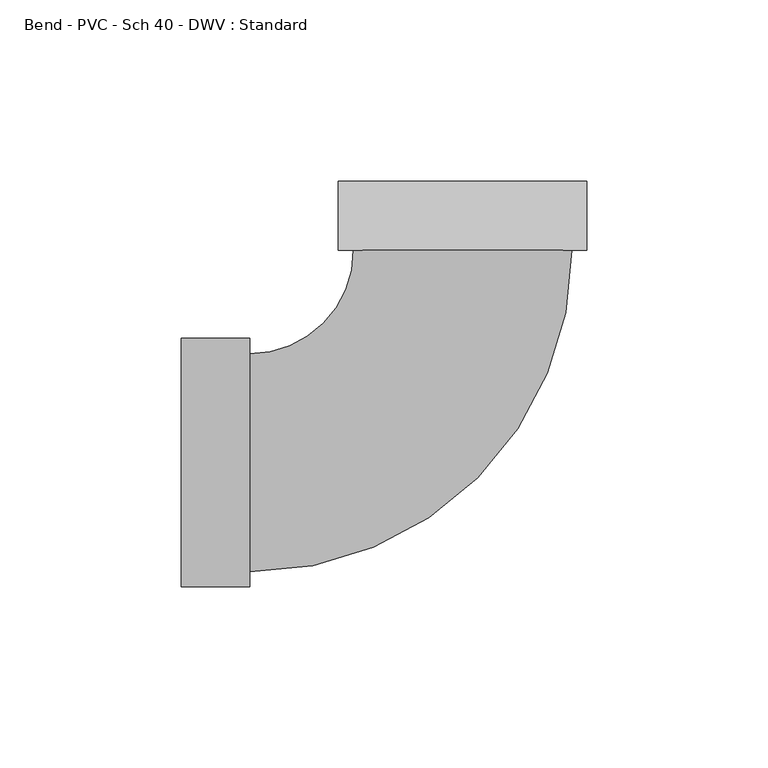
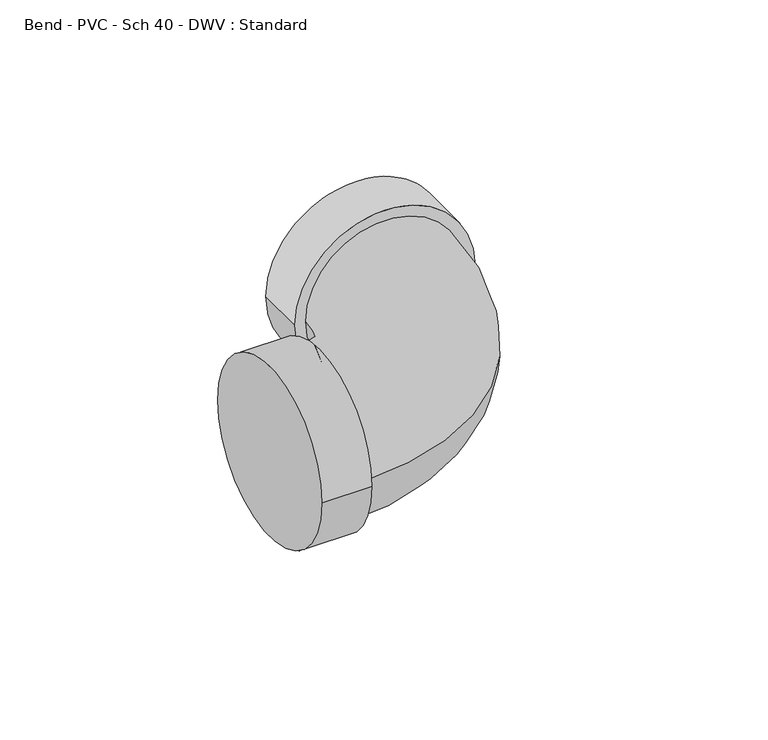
"""IFC4 building model written with IfcOpenShell, lengths in millimetres: pipe fitting geometry, Bend - PVC - Sch 40 - DWV : Standard."""

import ifcopenshell
import ifcopenshell.guid

model = None  # the IFC model being written
_history = None  # IfcOwnerHistory: only IFC2X3 demands one
_inside = {}  # id of a spatial element -> (the spatial element, [elements in it])
_under = {}  # id of a project, library or spatial element -> (it, [spatial elements below it])
_declared = {}  # id of a project -> (the project, [libraries it declares])
_typed = {}  # id of a type object -> (the type object, [elements of that type])
_made_of = {}  # id of a material, layer set ... -> (it, [elements and type objects made of it])


def new_model(schema):
    """Start an empty IFC model of exactly this schema.

    Asked for "IFC4X3", IfcOpenShell would pick the latest addendum, in which some entities
    have other attributes; the version numbers below select the first issue.
    IFC2X3 requires an IfcOwnerHistory on every rooted entity: one is made here for all.
    """
    global model, _history
    if schema == "IFC4X3":
        model = ifcopenshell.file(schema_version=(4, 3, 0, 0))
    else:
        model = ifcopenshell.file(schema=schema)
    _inside.clear()
    _under.clear()
    _declared.clear()
    _typed.clear()
    _made_of.clear()
    _history = None
    if model.schema == "IFC2X3":
        org = make("IfcOrganization", Name="unknown")
        user = make(
            "IfcPersonAndOrganization",
            ThePerson=make("IfcPerson", FamilyName="unknown"),
            TheOrganization=org,
        )
        app = make(
            "IfcApplication",
            ApplicationDeveloper=org,
            Version="unknown",
            ApplicationFullName="unknown",
            ApplicationIdentifier="unknown",
        )
        _history = make(
            "IfcOwnerHistory",
            OwningUser=user,
            OwningApplication=app,
            ChangeAction="ADDED",
            CreationDate=0,
        )
    return model


def make(cls, **values):
    """One entity of the class cls with the attributes given. An attribute that is None is left unset."""
    return model.create_entity(
        cls, **{name: value for name, value in values.items() if value is not None}
    )


def rooted(cls, **values):
    """An entity with a GlobalId (a new one), such as an element, a storey or a relation."""
    return make(cls, GlobalId=ifcopenshell.guid.new(), OwnerHistory=_history, **values)


def si_unit(unit_type, name, prefix=None):
    """IfcSIUnit, for example si_unit("LENGTHUNIT", "METRE", prefix="MILLI")."""
    return make("IfcSIUnit", UnitType=unit_type, Prefix=prefix, Name=name)


def assignment(units):
    """IfcUnitAssignment: the units of a project."""
    return None if units is None else make("IfcUnitAssignment", Units=units)


def point(xyz):
    """IfcCartesianPoint."""
    return None if xyz is None else make("IfcCartesianPoint", Coordinates=xyz)


def direction(xyz):
    """IfcDirection."""
    return None if xyz is None else make("IfcDirection", DirectionRatios=xyz)


def frame(location, z_axis=None, x_axis=None):
    """IfcAxis2Placement3D, a coordinate frame: its origin and axes. An axis left out is left unset."""
    return make(
        "IfcAxis2Placement3D",
        Location=point(location),
        Axis=direction(z_axis),
        RefDirection=direction(x_axis),
    )


def origin():
    """The frame at (0, 0, 0) with its axes left unset."""
    return frame((0.0, 0.0, 0.0))


def place(relative_to, where):
    """IfcLocalPlacement: puts the frame where relative to a parent placement (None: the world)."""
    return make(
        "IfcLocalPlacement", PlacementRelTo=relative_to, RelativePlacement=where
    )


def context(
    kind, dimensions, precision=None, world=None, true_north=None, identifier=None
):
    """IfcGeometricRepresentationContext, for example the 3D "Model" context."""
    return make(
        "IfcGeometricRepresentationContext",
        ContextIdentifier=identifier,
        ContextType=kind,
        CoordinateSpaceDimension=dimensions,
        Precision=precision,
        WorldCoordinateSystem=world,
        TrueNorth=true_north,
    )


def project(units=None, contexts=None):
    """IfcProject with its units and contexts."""
    return rooted(
        "IfcProject",
        Name="project",
        RepresentationContexts=contexts,
        UnitsInContext=assignment(units),
    )


def spatial(cls, under=None, at=None, **own):
    """A site, building, storey or space (cls), placed at a placement, below another one or the project."""
    s = rooted(cls, ObjectPlacement=at, **own)
    if under is not None:
        _under.setdefault(under.id(), (under, []))[1].append(s)
    return s


def circle_curve(where, radius):
    """IfcCircle in the frame where."""
    return make("IfcCircle", Position=where, Radius=radius)


def ellipse_curve(where, semi_axis1, semi_axis2):
    """IfcEllipse in the frame where."""
    return make(
        "IfcEllipse", Position=where, SemiAxis1=semi_axis1, SemiAxis2=semi_axis2
    )


def trimmed(basis, trim1, trim2, sense, master):
    """IfcTrimmedCurve: the piece of a basis curve between two trims."""
    return make(
        "IfcTrimmedCurve",
        BasisCurve=basis,
        Trim1=trim1,
        Trim2=trim2,
        SenseAgreement=sense,
        MasterRepresentation=master,
    )


def shape(context_of_items, identifier, shape_type, items):
    """IfcShapeRepresentation: the items that make up one representation, for example the "Body"."""
    return make(
        "IfcShapeRepresentation",
        ContextOfItems=context_of_items,
        RepresentationIdentifier=identifier,
        RepresentationType=shape_type,
        Items=items,
    )


def source(mapping_origin, context_of_items, identifier, shape_type, items):
    """IfcRepresentationMap: a shape defined once, which mapped items show again and again."""
    return make(
        "IfcRepresentationMap",
        MappingOrigin=mapping_origin,
        MappedRepresentation=shape(context_of_items, identifier, shape_type, items),
    )


def transform(
    local_origin,
    x_axis=None,
    y_axis=None,
    z_axis=None,
    scale=None,
    scale2=None,
    scale3=None,
    uniform=True,
):
    """IfcCartesianTransformationOperator3D, or its non-uniform kind. x_axis, y_axis, z_axis: its Axis1, 2, 3."""
    if uniform:
        return make(
            "IfcCartesianTransformationOperator3D",
            Axis1=direction(x_axis),
            Axis2=direction(y_axis),
            LocalOrigin=point(local_origin),
            Scale=scale,
            Axis3=direction(z_axis),
        )
    return make(
        "IfcCartesianTransformationOperator3DnonUniform",
        Axis1=direction(x_axis),
        Axis2=direction(y_axis),
        LocalOrigin=point(local_origin),
        Scale=scale,
        Axis3=direction(z_axis),
        Scale2=scale2,
        Scale3=scale3,
    )


def mapped(mapping_source, mapping_target):
    """IfcMappedItem: shows the shape of a source again, moved by a transform."""
    return make(
        "IfcMappedItem", MappingSource=mapping_source, MappingTarget=mapping_target
    )


def made_of(thing, what):
    """Note that an element or type object is made of a material, layer set ...; save() writes the relation."""
    if what is not None:
        _made_of.setdefault(what.id(), (what, []))[1].append(thing)
    return thing


def element(
    cls,
    number,
    at=None,
    inside=None,
    cuts=None,
    type_object=None,
    material=None,
    context=None,
    identifier="Body",
    shape_type=None,
    held_by="IfcProductDefinitionShape",
    body=None,
    shapes=None,
    **own,
):
    """One element of the class cls, such as IfcWall. Its Tag is "e" and its number.

    at: its placement. inside: the storey or other place that contains it. cuts: it is an
    opening in that element (IfcRelVoidsElement). A single representation is given by context,
    identifier, shape_type and body (its items); several are given by shapes. held_by: the class
    of the entity that holds the representations. save() writes the other relations.
    """
    e = rooted(cls, Tag="e%d" % number, ObjectPlacement=at, **own)
    if body is not None:
        shapes = [shape(context, identifier, shape_type, body)]
    if shapes is not None:
        e.Representation = make(held_by, Representations=shapes)
    if inside is not None:
        _inside.setdefault(inside.id(), (inside, []))[1].append(e)
    if cuts is not None:
        rooted(
            "IfcRelVoidsElement", RelatingBuildingElement=cuts, RelatedOpeningElement=e
        )
    if type_object is not None:
        _typed.setdefault(type_object.id(), (type_object, []))[1].append(e)
    return made_of(e, material)


def aggregate(whole, parts):
    """IfcRelAggregates: a whole, such as a stair, and the parts it consists of."""
    return rooted("IfcRelAggregates", RelatingObject=whole, RelatedObjects=parts)


def save(model, path):
    """Write the relations noted so far, then the file.

    IfcRelAggregates (storeys below a building ...), IfcRelContainedInSpatialStructure (elements
    in a storey), IfcRelDefinesByType, IfcRelAssociatesMaterial and IfcRelDeclares: one each for
    every whole, place, type object, material and project.
    """
    for whole, parts in _under.values():
        aggregate(whole, parts)
    for where, things in _inside.values():
        rooted(
            "IfcRelContainedInSpatialStructure",
            RelatedElements=things,
            RelatingStructure=where,
        )
    for kind, things in _typed.values():
        rooted("IfcRelDefinesByType", RelatedObjects=things, RelatingType=kind)
    for what, things in _made_of.values():
        rooted("IfcRelAssociatesMaterial", RelatedObjects=things, RelatingMaterial=what)
    for by, libraries in _declared.values():
        rooted("IfcRelDeclares", RelatingContext=by, RelatedDefinitions=libraries)
    model.write(path)


def plane_surface(at):
    """IfcPlane: the flat surface through the origin of the frame at, square to its z axis."""
    return make("IfcPlane", Position=at)


def cylinder_surface(at, radius):
    """IfcCylindricalSurface: all points at the distance radius from the z axis of the frame at."""
    return make("IfcCylindricalSurface", Position=at, Radius=radius)


def revolved_surface(curve, axis_point, axis_direction):
    """IfcSurfaceOfRevolution: the curve turned about the line through axis_point along axis_direction."""
    return make(
        "IfcSurfaceOfRevolution",
        SweptCurve=make("IfcArbitraryOpenProfileDef", ProfileType="CURVE", Curve=curve),
        AxisPosition=make("IfcAxis1Placement", Location=point(axis_point), Axis=direction(axis_direction)),
    )


def advanced_brep(points, edges, surfaces, faces):
    """IfcAdvancedBrep: a solid bounded by faces that lie on surfaces and meet in shared edges.

    An edge is (start, end): straight between two places in points (the first is 0);
    or (start, end, curve); or (start, end, curve, False) where it runs against its curve.
    A face is (place in surfaces, loops), or (place, loops, False) where it looks against
    its surface's normal. A loop lists edges by number (the first is 1), with a minus sign
    where the edge is run from its end to its start. The first loop is the outer one.
    """
    corners = [point(p) for p in points]
    vertices = [make("IfcVertexPoint", VertexGeometry=c) for c in corners]
    made = []
    for start, end, *more in edges:
        made.append(
            make(
                "IfcEdgeCurve",
                EdgeStart=vertices[start],
                EdgeEnd=vertices[end],
                EdgeGeometry=more[0] if more else make("IfcPolyline", Points=[corners[start], corners[end]]),
                SameSense=more[1] if len(more) > 1 else True,
            )
        )
    hull = []
    for where, loops, *sense in faces:
        bounds = []
        for j, loop in enumerate(loops):
            ring = [make("IfcOrientedEdge", EdgeElement=made[abs(k) - 1], Orientation=k > 0) for k in loop]
            bounds.append(
                make(
                    "IfcFaceOuterBound" if j == 0 else "IfcFaceBound",
                    Bound=make("IfcEdgeLoop", EdgeList=ring),
                    Orientation=True,
                )
            )
        hull.append(make("IfcAdvancedFace", Bounds=bounds, FaceSurface=surfaces[where], SameSense=sense[0] if sense else True))
    return make("IfcAdvancedBrep", Outer=make("IfcClosedShell", CfsFaces=hull))


def bend_pvc_sch_40_dwv_standard_cf73f651(model_context):
    return source(origin(), model_context, "Body", "AdvancedBrep", [
        advanced_brep(
        [(-77.8002, -34.3154, 0.0), (-77.8002, 34.3154, 0.0), (-58.7502, -34.3154, 0.0), (-58.7502, 34.3154, 0.0), (-58.7502, -30.1625, 0.0), (-58.7502, 30.1625, 0.0), (-30.1624945, 58.7502028, 0.0), (30.1625055, 58.7501972, 0.0), (34.3154055, 58.7501968, 0.0), (-34.3153945, 58.7502032, 0.0), (34.3154073, 77.8001968, 0.0), (-34.3153927, 77.8002032, 0.0)],
        [
            (0, 1, circle_curve(frame((-77.8002, 0.0, 0.0), z_axis=(-1.0, 0.0, 0.0), x_axis=(0.0, 1.0, 0.0)), 34.3154)),
            (1, 0, circle_curve(frame((-77.8002, 0.0, 0.0), z_axis=(-1.0, 0.0, 0.0), x_axis=(0.0, 1.0, 0.0)), 34.3154)),
            (2, 3, circle_curve(frame((-58.7502, 0.0, 0.0), z_axis=(1.0, 0.0, 0.0), x_axis=(0.0, 1.0, 0.0)), 34.3154)),
            (3, 2, circle_curve(frame((-58.7502, 0.0, 0.0), z_axis=(1.0, 0.0, 0.0), x_axis=(0.0, 1.0, 0.0)), 34.3154)),
            (4, 5, circle_curve(frame((-58.7502, 0.0, 0.0), z_axis=(-1.0, 0.0, 0.0), x_axis=(0.0, 1.0, 0.0)), 30.1625)),
            (5, 4, circle_curve(frame((-58.7502, 0.0, 0.0), z_axis=(-1.0, 0.0, 0.0), x_axis=(0.0, 1.0, 0.0)), 30.1625)),
            (0, 2),
            (3, 1),
            (6, 5, circle_curve(frame((-58.7502, 58.7502055, 0.0), z_axis=(0.0, 0.0, -1.0), x_axis=(0.0, -1.0, 0.0)), 28.5877055)),
            (4, 7, circle_curve(frame((-58.7502, 58.7502055, 0.0), z_axis=(0.0, 0.0, 1.0), x_axis=(0.0, -1.0, 0.0)), 88.9127055)),
            (7, 6, circle_curve(frame((5.5e-06, 58.7502, 0.0), z_axis=(-9.370221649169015e-08, -0.9999999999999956, 0.0), x_axis=(-0.9999999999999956, 9.370221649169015e-08, 0.0)), 30.1625)),
            (6, 7, circle_curve(frame((5.5e-06, 58.7502, 0.0), z_axis=(-9.370221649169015e-08, -0.9999999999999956, 0.0), x_axis=(-0.9999999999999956, 9.370221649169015e-08, 0.0)), 30.1625)),
            (8, 9, circle_curve(frame((5.5e-06, 58.7502, 0.0), z_axis=(-9.370221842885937e-08, -0.9999999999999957, 0.0), x_axis=(-0.9999999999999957, 9.370221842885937e-08, 0.0)), 34.3154)),
            (9, 8, circle_curve(frame((5.5e-06, 58.7502, 0.0), z_axis=(-9.370221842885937e-08, -0.9999999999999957, 0.0), x_axis=(-0.9999999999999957, 9.370221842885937e-08, 0.0)), 34.3154)),
            (10, 11, circle_curve(frame((7.3e-06, 77.8002, 0.0), z_axis=(9.370221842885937e-08, 0.9999999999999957, 0.0), x_axis=(-0.9999999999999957, 9.370221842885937e-08, 0.0)), 34.3154)),
            (11, 10, circle_curve(frame((7.3e-06, 77.8002, 0.0), z_axis=(9.370221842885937e-08, 0.9999999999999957, 0.0), x_axis=(-0.9999999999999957, 9.370221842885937e-08, 0.0)), 34.3154)),
            (8, 10),
            (11, 9),
        ],
        [
            plane_surface(frame((-77.8002, 0.0, 0.0), z_axis=(-1.0, 0.0, 0.0), x_axis=(0.0, 0.0, 1.0))),
            plane_surface(frame((-58.7502, 0.0, 0.0), z_axis=(1.0, 0.0, 0.0), x_axis=(0.0, 0.0, 1.0))),
            cylinder_surface(frame((-77.8002, 0.0, 0.0), z_axis=(-1.0, 0.0, 0.0), x_axis=(0.0, 1.0, 0.0)), 34.3154),
            revolved_surface(trimmed(ellipse_curve(frame((-58.7502, 0.0, 0.0), z_axis=(-1.0, 0.0, 0.0), x_axis=(0.0, 1.0, 0.0)), 30.1625, 30.1625), [point((-58.7502, -30.1625, 0.0))], [point((-58.7502, 30.1625, 0.0))], True, "CARTESIAN"), (-58.7502, 58.7502055, 0.0), (0.0, 0.0, 1.0)),
            revolved_surface(trimmed(ellipse_curve(frame((-58.7502, 0.0, 0.0), z_axis=(-1.0, 0.0, 0.0), x_axis=(0.0, 1.0, 0.0)), 30.1625, 30.1625), [point((-58.7502, 30.1625, 0.0))], [point((-58.7502, -30.1625, 0.0))], True, "CARTESIAN"), (-58.7502, 58.7502055, 0.0), (0.0, 0.0, 1.0)),
            plane_surface(frame((5.5e-06, 58.7502, 0.0), z_axis=(-9.370221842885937e-08, -0.9999999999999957, 0.0), x_axis=(0.0, 0.0, 1.0))),
            plane_surface(frame((7.3e-06, 77.8002, 0.0), z_axis=(9.370221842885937e-08, 0.9999999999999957, 0.0), x_axis=(0.0, 0.0, 1.0))),
            cylinder_surface(frame((5.5e-06, 58.7502, 0.0), z_axis=(-9.370221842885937e-08, -0.9999999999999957, 0.0), x_axis=(-0.9999999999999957, 9.370221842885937e-08, 0.0)), 34.3154),
        ],
        [
            (0, [[1, 2]]),
            (1, [[3, 4], [5, 6]]),
            (2, [[-1, 7, -4, 8]]),
            (2, [[-2, -8, -3, -7]]),
            (3, [[9, -5, 10, 11]]),
            (4, [[-9, 12, -10, -6]]),
            (5, [[13, 14], [-11, -12]]),
            (6, [[15, 16]]),
            (7, [[-13, 17, -16, 18]]),
            (7, [[-14, -18, -15, -17]]),
        ],
    ),
    ])


if __name__ == "__main__":
    model = new_model("IFC4")
    model_context = context("Model", 3, world=origin())
    ifc_project = project(units=[si_unit("LENGTHUNIT", "METRE", prefix="MILLI")], contexts=[model_context])
    site = spatial("IfcSite", under=ifc_project)
    building = spatial("IfcBuilding", under=site)
    placement = place(None, origin())
    bend_pvc_sch_40_dwv_standard_shape = bend_pvc_sch_40_dwv_standard_cf73f651(model_context)
    element("IfcPipeFitting", 1, ObjectType="Bend - PVC - Sch 40 - DWV : Standard", at=placement, inside=building, context=model_context, shape_type="MappedRepresentation", body=[
        mapped(bend_pvc_sch_40_dwv_standard_shape, transform((0.0, 0.0, 0.0), x_axis=(1.0, 0.0, 0.0), y_axis=(0.0, 1.0, 0.0), z_axis=(0.0, 0.0, 1.0))),
    ])
    save(model, "model.ifc")
